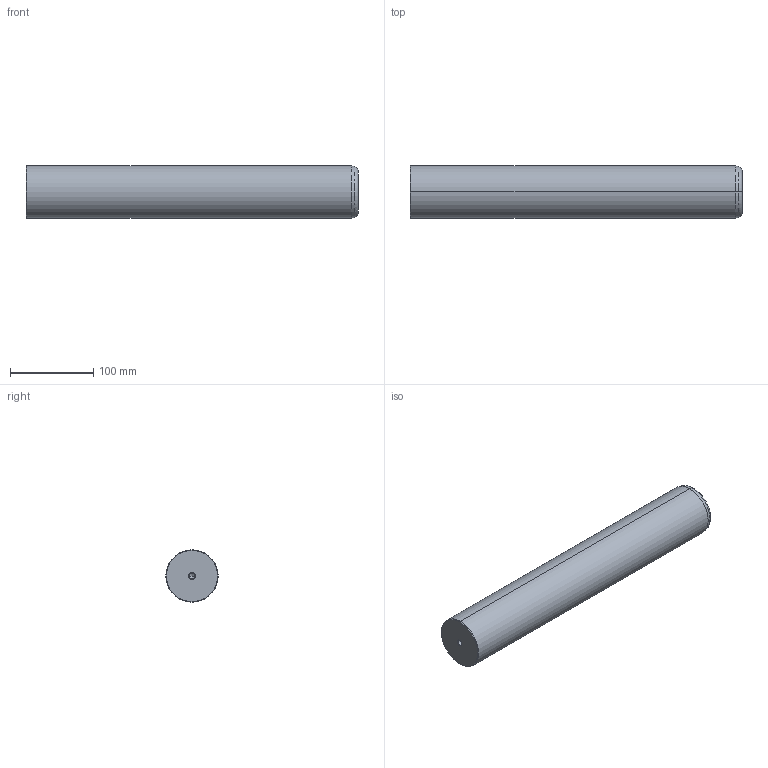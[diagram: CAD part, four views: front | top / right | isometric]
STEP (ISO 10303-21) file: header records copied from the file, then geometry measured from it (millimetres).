
FILE_DESCRIPTION(('CATIA V5 STEP Exchange'),'2;1');
FILE_NAME('C:\Users\Utente\Desktop\IO LAVORO\3D X SITO CF\X SITO\720\720-63x400.stp','2020-12-30T21:26:46+00:00',('none'),('none'),'CATIA Version 5 Release 20 GA (IN-10)','CATIA V5 STEP AP203','none');
FILE_SCHEMA(('CONFIG_CONTROL_DESIGN'));
Length unit declared in the file: millimetre
Products named in the file (1): 720-63x400
Bounding box: 400 x 63 x 63 mm (x, y, z)
Volume: 1242953.1 mm3; surface area: 85690.7 mm2
Topology: 1 solids, 1 shells, 22 faces, 62 edges, 40 vertices
Faces by surface type: cone 12, cylinder 6, plane 2, torus 2
Entity records: 806 total; most frequent: CARTESIAN_POINT 229, ORIENTED_EDGE 116, DIRECTION 93, EDGE_CURVE 58, AXIS2_PLACEMENT_3D 54, VERTEX_POINT 40, CIRCLE 31, EDGE_LOOP 24
